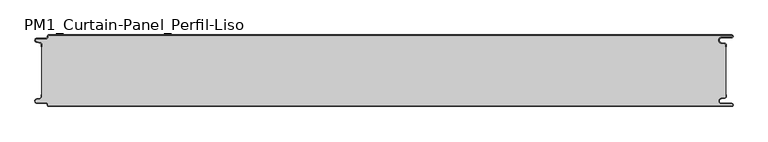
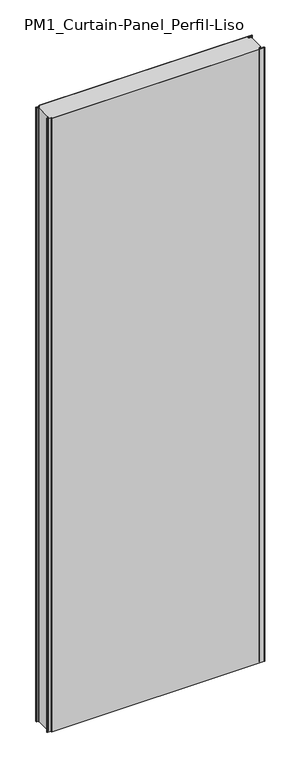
"""IFC4 building model written with IfcOpenShell, lengths in millimetres: plate geometry, PM1_Curtain-Panel_Perfil-Liso : ACH_PM1_Panel-Acústico-Sectorización_120M."""

import ifcopenshell
import ifcopenshell.guid

model = None  # the IFC model being written
_history = None  # IfcOwnerHistory: only IFC2X3 demands one
_inside = {}  # id of a spatial element -> (the spatial element, [elements in it])
_under = {}  # id of a project, library or spatial element -> (it, [spatial elements below it])
_declared = {}  # id of a project -> (the project, [libraries it declares])
_typed = {}  # id of a type object -> (the type object, [elements of that type])
_made_of = {}  # id of a material, layer set ... -> (it, [elements and type objects made of it])


def new_model(schema):
    """Start an empty IFC model of exactly this schema.

    Asked for "IFC4X3", IfcOpenShell would pick the latest addendum, in which some entities
    have other attributes; the version numbers below select the first issue.
    IFC2X3 requires an IfcOwnerHistory on every rooted entity: one is made here for all.
    """
    global model, _history
    if schema == "IFC4X3":
        model = ifcopenshell.file(schema_version=(4, 3, 0, 0))
    else:
        model = ifcopenshell.file(schema=schema)
    _inside.clear()
    _under.clear()
    _declared.clear()
    _typed.clear()
    _made_of.clear()
    _history = None
    if model.schema == "IFC2X3":
        org = make("IfcOrganization", Name="unknown")
        user = make(
            "IfcPersonAndOrganization",
            ThePerson=make("IfcPerson", FamilyName="unknown"),
            TheOrganization=org,
        )
        app = make(
            "IfcApplication",
            ApplicationDeveloper=org,
            Version="unknown",
            ApplicationFullName="unknown",
            ApplicationIdentifier="unknown",
        )
        _history = make(
            "IfcOwnerHistory",
            OwningUser=user,
            OwningApplication=app,
            ChangeAction="ADDED",
            CreationDate=0,
        )
    return model


def make(cls, **values):
    """One entity of the class cls with the attributes given. An attribute that is None is left unset."""
    return model.create_entity(
        cls, **{name: value for name, value in values.items() if value is not None}
    )


def rooted(cls, **values):
    """An entity with a GlobalId (a new one), such as an element, a storey or a relation."""
    return make(cls, GlobalId=ifcopenshell.guid.new(), OwnerHistory=_history, **values)


def si_unit(unit_type, name, prefix=None):
    """IfcSIUnit, for example si_unit("LENGTHUNIT", "METRE", prefix="MILLI")."""
    return make("IfcSIUnit", UnitType=unit_type, Prefix=prefix, Name=name)


def assignment(units):
    """IfcUnitAssignment: the units of a project."""
    return None if units is None else make("IfcUnitAssignment", Units=units)


def point(xyz):
    """IfcCartesianPoint."""
    return None if xyz is None else make("IfcCartesianPoint", Coordinates=xyz)


def direction(xyz):
    """IfcDirection."""
    return None if xyz is None else make("IfcDirection", DirectionRatios=xyz)


def frame(location, z_axis=None, x_axis=None):
    """IfcAxis2Placement3D, a coordinate frame: its origin and axes. An axis left out is left unset."""
    return make(
        "IfcAxis2Placement3D",
        Location=point(location),
        Axis=direction(z_axis),
        RefDirection=direction(x_axis),
    )


def frame_2d(location, x_axis=None):
    """IfcAxis2Placement2D, a coordinate frame in the plane: its origin and x axis."""
    return make(
        "IfcAxis2Placement2D", Location=point(location), RefDirection=direction(x_axis)
    )


def origin():
    """The frame at (0, 0, 0) with its axes left unset."""
    return frame((0.0, 0.0, 0.0))


def origin_with_axes():
    """The frame at (0, 0, 0) with the z axis (0, 0, 1) and the x axis (1, 0, 0) written out."""
    return frame((0.0, 0.0, 0.0), z_axis=(0.0, 0.0, 1.0), x_axis=(1.0, 0.0, 0.0))


def place(relative_to, where):
    """IfcLocalPlacement: puts the frame where relative to a parent placement (None: the world)."""
    return make(
        "IfcLocalPlacement", PlacementRelTo=relative_to, RelativePlacement=where
    )


def context(
    kind, dimensions, precision=None, world=None, true_north=None, identifier=None
):
    """IfcGeometricRepresentationContext, for example the 3D "Model" context."""
    return make(
        "IfcGeometricRepresentationContext",
        ContextIdentifier=identifier,
        ContextType=kind,
        CoordinateSpaceDimension=dimensions,
        Precision=precision,
        WorldCoordinateSystem=world,
        TrueNorth=true_north,
    )


def project(units=None, contexts=None):
    """IfcProject with its units and contexts."""
    return rooted(
        "IfcProject",
        Name="project",
        RepresentationContexts=contexts,
        UnitsInContext=assignment(units),
    )


def spatial(cls, under=None, at=None, **own):
    """A site, building, storey or space (cls), placed at a placement, below another one or the project."""
    s = rooted(cls, ObjectPlacement=at, **own)
    if under is not None:
        _under.setdefault(under.id(), (under, []))[1].append(s)
    return s


def polyline(points):
    """IfcPolyline through the points."""
    return make("IfcPolyline", Points=[point(p) for p in points])


def circle_curve(where, radius):
    """IfcCircle in the frame where."""
    return make("IfcCircle", Position=where, Radius=radius)


def trimmed(basis, trim1, trim2, sense, master):
    """IfcTrimmedCurve: the piece of a basis curve between two trims."""
    return make(
        "IfcTrimmedCurve",
        BasisCurve=basis,
        Trim1=trim1,
        Trim2=trim2,
        SenseAgreement=sense,
        MasterRepresentation=master,
    )


def segment(curve, same_sense, transition):
    """IfcCompositeCurveSegment."""
    return make(
        "IfcCompositeCurveSegment",
        Transition=transition,
        SameSense=same_sense,
        ParentCurve=curve,
    )


def composite_curve(segments, self_intersect=None):
    """IfcCompositeCurve: segments joined end to end."""
    return make("IfcCompositeCurve", Segments=segments, SelfIntersect=self_intersect)


def outline(outer, holes=None, kind="AREA"):
    """IfcArbitraryClosedProfileDef: a profile drawn as a closed curve; with holes, ...WithVoids."""
    if holes is None:
        return make("IfcArbitraryClosedProfileDef", ProfileType=kind, OuterCurve=outer)
    return make(
        "IfcArbitraryProfileDefWithVoids",
        ProfileType=kind,
        OuterCurve=outer,
        InnerCurves=holes,
    )


def extrude(swept, where, along, depth):
    """IfcExtrudedAreaSolid: the profile swept, set in the frame where, extruded along a direction by depth."""
    return make(
        "IfcExtrudedAreaSolid",
        SweptArea=swept,
        Position=where,
        ExtrudedDirection=direction(along),
        Depth=depth,
    )


def shape(context_of_items, identifier, shape_type, items):
    """IfcShapeRepresentation: the items that make up one representation, for example the "Body"."""
    return make(
        "IfcShapeRepresentation",
        ContextOfItems=context_of_items,
        RepresentationIdentifier=identifier,
        RepresentationType=shape_type,
        Items=items,
    )


def source(mapping_origin, context_of_items, identifier, shape_type, items):
    """IfcRepresentationMap: a shape defined once, which mapped items show again and again."""
    return make(
        "IfcRepresentationMap",
        MappingOrigin=mapping_origin,
        MappedRepresentation=shape(context_of_items, identifier, shape_type, items),
    )


def transform(
    local_origin,
    x_axis=None,
    y_axis=None,
    z_axis=None,
    scale=None,
    scale2=None,
    scale3=None,
    uniform=True,
):
    """IfcCartesianTransformationOperator3D, or its non-uniform kind. x_axis, y_axis, z_axis: its Axis1, 2, 3."""
    if uniform:
        return make(
            "IfcCartesianTransformationOperator3D",
            Axis1=direction(x_axis),
            Axis2=direction(y_axis),
            LocalOrigin=point(local_origin),
            Scale=scale,
            Axis3=direction(z_axis),
        )
    return make(
        "IfcCartesianTransformationOperator3DnonUniform",
        Axis1=direction(x_axis),
        Axis2=direction(y_axis),
        LocalOrigin=point(local_origin),
        Scale=scale,
        Axis3=direction(z_axis),
        Scale2=scale2,
        Scale3=scale3,
    )


def mapped(mapping_source, mapping_target):
    """IfcMappedItem: shows the shape of a source again, moved by a transform."""
    return make(
        "IfcMappedItem", MappingSource=mapping_source, MappingTarget=mapping_target
    )


def made_of(thing, what):
    """Note that an element or type object is made of a material, layer set ...; save() writes the relation."""
    if what is not None:
        _made_of.setdefault(what.id(), (what, []))[1].append(thing)
    return thing


def element(
    cls,
    number,
    at=None,
    inside=None,
    cuts=None,
    type_object=None,
    material=None,
    context=None,
    identifier="Body",
    shape_type=None,
    held_by="IfcProductDefinitionShape",
    body=None,
    shapes=None,
    **own,
):
    """One element of the class cls, such as IfcWall. Its Tag is "e" and its number.

    at: its placement. inside: the storey or other place that contains it. cuts: it is an
    opening in that element (IfcRelVoidsElement). A single representation is given by context,
    identifier, shape_type and body (its items); several are given by shapes. held_by: the class
    of the entity that holds the representations. save() writes the other relations.
    """
    e = rooted(cls, Tag="e%d" % number, ObjectPlacement=at, **own)
    if body is not None:
        shapes = [shape(context, identifier, shape_type, body)]
    if shapes is not None:
        e.Representation = make(held_by, Representations=shapes)
    if inside is not None:
        _inside.setdefault(inside.id(), (inside, []))[1].append(e)
    if cuts is not None:
        rooted(
            "IfcRelVoidsElement", RelatingBuildingElement=cuts, RelatedOpeningElement=e
        )
    if type_object is not None:
        _typed.setdefault(type_object.id(), (type_object, []))[1].append(e)
    return made_of(e, material)


def aggregate(whole, parts):
    """IfcRelAggregates: a whole, such as a stair, and the parts it consists of."""
    return rooted("IfcRelAggregates", RelatingObject=whole, RelatedObjects=parts)


def save(model, path):
    """Write the relations noted so far, then the file.

    IfcRelAggregates (storeys below a building ...), IfcRelContainedInSpatialStructure (elements
    in a storey), IfcRelDefinesByType, IfcRelAssociatesMaterial and IfcRelDeclares: one each for
    every whole, place, type object, material and project.
    """
    for whole, parts in _under.values():
        aggregate(whole, parts)
    for where, things in _inside.values():
        rooted(
            "IfcRelContainedInSpatialStructure",
            RelatedElements=things,
            RelatingStructure=where,
        )
    for kind, things in _typed.values():
        rooted("IfcRelDefinesByType", RelatedObjects=things, RelatingType=kind)
    for what, things in _made_of.values():
        rooted("IfcRelAssociatesMaterial", RelatedObjects=things, RelatingMaterial=what)
    for by, libraries in _declared.values():
        rooted("IfcRelDeclares", RelatingContext=by, RelatedDefinitions=libraries)
    model.write(path)


def plane_surface(at):
    """IfcPlane: the flat surface through the origin of the frame at, square to its z axis."""
    return make("IfcPlane", Position=at)


def cylinder_surface(at, radius):
    """IfcCylindricalSurface: all points at the distance radius from the z axis of the frame at."""
    return make("IfcCylindricalSurface", Position=at, Radius=radius)


def revolved_surface(curve, axis_point, axis_direction):
    """IfcSurfaceOfRevolution: the curve turned about the line through axis_point along axis_direction."""
    return make(
        "IfcSurfaceOfRevolution",
        SweptCurve=make("IfcArbitraryOpenProfileDef", ProfileType="CURVE", Curve=curve),
        AxisPosition=make("IfcAxis1Placement", Location=point(axis_point), Axis=direction(axis_direction)),
    )


def advanced_brep(points, edges, surfaces, faces):
    """IfcAdvancedBrep: a solid bounded by faces that lie on surfaces and meet in shared edges.

    An edge is (start, end): straight between two places in points (the first is 0);
    or (start, end, curve); or (start, end, curve, False) where it runs against its curve.
    A face is (place in surfaces, loops), or (place, loops, False) where it looks against
    its surface's normal. A loop lists edges by number (the first is 1), with a minus sign
    where the edge is run from its end to its start. The first loop is the outer one.
    """
    corners = [point(p) for p in points]
    vertices = [make("IfcVertexPoint", VertexGeometry=c) for c in corners]
    made = []
    for start, end, *more in edges:
        made.append(
            make(
                "IfcEdgeCurve",
                EdgeStart=vertices[start],
                EdgeEnd=vertices[end],
                EdgeGeometry=more[0] if more else make("IfcPolyline", Points=[corners[start], corners[end]]),
                SameSense=more[1] if len(more) > 1 else True,
            )
        )
    hull = []
    for where, loops, *sense in faces:
        bounds = []
        for j, loop in enumerate(loops):
            ring = [make("IfcOrientedEdge", EdgeElement=made[abs(k) - 1], Orientation=k > 0) for k in loop]
            bounds.append(
                make(
                    "IfcFaceOuterBound" if j == 0 else "IfcFaceBound",
                    Bound=make("IfcEdgeLoop", EdgeList=ring),
                    Orientation=True,
                )
            )
        hull.append(make("IfcAdvancedFace", Bounds=bounds, FaceSurface=surfaces[where], SameSense=sense[0] if sense else True))
    return make("IfcAdvancedBrep", Outer=make("IfcClosedShell", CfsFaces=hull))


def pm1_curtain_panel_perfil_liso_1df6bcda(model_context):
    return source(origin(), model_context, "Body", "SolidModel", [
        advanced_brep(
        [(583.1, 0.0, 3500.0), (-562.4, 0.0, 3500.0), (-564.4, -2.0, 3500.0), (-564.4, -3.4, 3500.0), (-566.4, -5.4, 3500.0), (-581.9, -5.4, 3500.0), (-582.7098239, -12.5077322, 3500.0), (-576.5500979, -13.929817, 3500.0), (-575.0, -15.878557, 3500.0), (-575.0, -20.0, 3500.0), (-574.2, -20.0, 3500.0), (-574.2, -15.878557, 3500.0), (-576.370137, -13.1503208, 3500.0), (-582.529863, -11.728236, 3500.0), (-581.9, -6.2, 3500.0), (-566.4, -6.2, 3500.0), (-563.6, -3.4, 3500.0), (-563.6, -2.0, 3500.0), (-562.4, -0.8, 3500.0), (583.1, -0.8, 3500.0), (583.1, -4.2, 3500.0), (566.1, -4.2, 3500.0), (565.266489, -13.7270773, 3500.0), (571.7125666, -14.8636942, 3500.0), (573.2, -16.636348, 3500.0), (573.2, -20.0, 3500.0), (574.0, -20.0, 3500.0), (574.0, -16.636348, 3500.0), (571.8514851, -14.0758478, 3500.0), (565.4054075, -12.9392309, 3500.0), (566.1, -5.0, 3500.0), (583.1, -5.0, 3500.0), (585.6, -2.5, 3500.0), (-562.4, 0.0, 0.0), (583.1, 0.0, 0.0), (585.6, -2.5, 0.0), (583.1, -5.0, 0.0), (566.1, -5.0, 0.0), (565.4054075, -12.939231, 0.0), (571.8514851, -14.075848, 0.0), (574.0, -16.636348, 0.0), (574.0, -20.0, 0.0), (573.2, -20.0, 0.0), (573.2, -16.636348, 0.0), (571.7125666, -14.863694, 0.0), (565.266489, -13.7270771, 0.0), (566.1, -4.2, 0.0), (583.1, -4.2, 0.0), (583.1, -0.8, 0.0), (-562.4, -0.8, 0.0), (-563.6, -2.0, 0.0), (-563.6, -3.4, 0.0), (-566.4, -6.2, 0.0), (-581.9, -6.2, 0.0), (-582.529863, -11.7282362, 0.0), (-576.370137, -13.150321, 0.0), (-574.2, -15.878557, 0.0), (-574.2, -20.0, 0.0), (-575.0, -20.0, 0.0), (-575.0, -15.878557, 0.0), (-576.5500978, -13.9298169, 0.0), (-582.7098239, -12.507732, 0.0), (-581.9, -5.4, 0.0), (-566.4, -5.4, 0.0), (-564.4, -3.4, 0.0), (-564.4, -2.0, 0.0)],
        [
            (0, 1),
            (1, 2, circle_curve(frame((-562.4, -2.0, 3500.0), z_axis=(0.0, 0.0, 1.0), x_axis=(1.0, 0.0, 0.0)), 2.0)),
            (2, 3),
            (3, 4, circle_curve(frame((-566.4, -3.4, 3500.0), z_axis=(0.0, 0.0, -1.0), x_axis=(1.0, 0.0, 0.0)), 2.0)),
            (4, 5),
            (5, 6, circle_curve(frame((-581.9, -9.0, 3500.0), z_axis=(0.0, 0.0, 1.0), x_axis=(1.0, 0.0, 0.0)), 3.6)),
            (6, 7),
            (7, 8, circle_curve(frame((-577.0, -15.878557, 3500.0), z_axis=(0.0, 0.0, -1.0), x_axis=(1.0, 0.0, 0.0)), 2.0)),
            (8, 9),
            (9, 10),
            (10, 11),
            (11, 12, circle_curve(frame((-577.0, -15.878557, 3500.0), z_axis=(0.0, 0.0, 1.0), x_axis=(1.0, 0.0, 0.0)), 2.8)),
            (12, 13),
            (13, 14, circle_curve(frame((-581.9, -9.0, 3500.0), z_axis=(0.0, 0.0, -1.0), x_axis=(1.0, 0.0, 0.0)), 2.8)),
            (14, 15),
            (15, 16, circle_curve(frame((-566.4, -3.4, 3500.0), z_axis=(0.0, 0.0, 1.0), x_axis=(1.0, 0.0, 0.0)), 2.8)),
            (16, 17),
            (17, 18, circle_curve(frame((-562.4, -2.0, 3500.0), z_axis=(0.0, 0.0, -1.0), x_axis=(1.0, 0.0, 0.0)), 1.2)),
            (18, 19),
            (19, 20, circle_curve(frame((583.1, -2.5, 3500.0), z_axis=(0.0, 0.0, -1.0), x_axis=(1.0, 0.0, 0.0)), 1.7)),
            (20, 21),
            (21, 22, circle_curve(frame((566.1, -9.0, 3500.0), z_axis=(0.0, 0.0, 1.0), x_axis=(1.0, 0.0, 0.0)), 4.8)),
            (22, 23),
            (23, 24, circle_curve(frame((571.4, -16.636348, 3500.0), z_axis=(0.0, 0.0, -1.0), x_axis=(1.0, 0.0, 0.0)), 1.8)),
            (24, 25),
            (25, 26),
            (26, 27),
            (27, 28, circle_curve(frame((571.4, -16.636348, 3500.0), z_axis=(0.0, 0.0, 1.0), x_axis=(1.0, 0.0, 0.0)), 2.6)),
            (28, 29),
            (29, 30, circle_curve(frame((566.1, -9.0, 3500.0), z_axis=(0.0, 0.0, -1.0), x_axis=(1.0, 0.0, 0.0)), 4.0)),
            (30, 31),
            (31, 32, circle_curve(frame((583.1, -2.5, 3500.0), z_axis=(0.0, 0.0, 1.0), x_axis=(1.0, 0.0, 0.0)), 2.5)),
            (32, 0, circle_curve(frame((583.1, -2.5, 3500.0), z_axis=(0.0, 0.0, 1.0), x_axis=(1.0, 0.0, 0.0)), 2.5)),
            (33, 34),
            (34, 35, circle_curve(frame((583.1, -2.5, 0.0), z_axis=(0.0, 0.0, -1.0), x_axis=(1.0, 0.0, 0.0)), 2.5)),
            (35, 36, circle_curve(frame((583.1, -2.5, 0.0), z_axis=(0.0, 0.0, -1.0), x_axis=(1.0, 0.0, 0.0)), 2.5)),
            (36, 37),
            (37, 38, circle_curve(frame((566.1, -9.0, 0.0), z_axis=(0.0, 0.0, 1.0), x_axis=(1.0, 0.0, 0.0)), 4.0)),
            (38, 39),
            (39, 40, circle_curve(frame((571.4, -16.636348, 0.0), z_axis=(0.0, 0.0, -1.0), x_axis=(1.0, 0.0, 0.0)), 2.6)),
            (40, 41),
            (41, 42),
            (42, 43),
            (43, 44, circle_curve(frame((571.4, -16.636348, 0.0), z_axis=(0.0, 0.0, 1.0), x_axis=(1.0, 0.0, 0.0)), 1.8)),
            (44, 45),
            (45, 46, circle_curve(frame((566.1, -9.0, 0.0), z_axis=(0.0, 0.0, -1.0), x_axis=(1.0, 0.0, 0.0)), 4.8)),
            (46, 47),
            (47, 48, circle_curve(frame((583.1, -2.5, 0.0), z_axis=(0.0, 0.0, 1.0), x_axis=(1.0, 0.0, 0.0)), 1.7)),
            (48, 49),
            (49, 50, circle_curve(frame((-562.4, -2.0, 0.0), z_axis=(0.0, 0.0, 1.0), x_axis=(1.0, 0.0, 0.0)), 1.2)),
            (50, 51),
            (51, 52, circle_curve(frame((-566.4, -3.4, 0.0), z_axis=(0.0, 0.0, -1.0), x_axis=(1.0, 0.0, 0.0)), 2.8)),
            (52, 53),
            (53, 54, circle_curve(frame((-581.9, -9.0, 0.0), z_axis=(0.0, 0.0, 1.0), x_axis=(1.0, 0.0, 0.0)), 2.8)),
            (54, 55),
            (55, 56, circle_curve(frame((-577.0, -15.878557, 0.0), z_axis=(0.0, 0.0, -1.0), x_axis=(1.0, 0.0, 0.0)), 2.8)),
            (56, 57),
            (57, 58),
            (58, 59),
            (59, 60, circle_curve(frame((-577.0, -15.878557, 0.0), z_axis=(0.0, 0.0, 1.0), x_axis=(1.0, 0.0, 0.0)), 2.0)),
            (60, 61),
            (61, 62, circle_curve(frame((-581.9, -9.0, 0.0), z_axis=(0.0, 0.0, -1.0), x_axis=(1.0, 0.0, 0.0)), 3.6)),
            (62, 63),
            (63, 64, circle_curve(frame((-566.4, -3.4, 0.0), z_axis=(0.0, 0.0, 1.0), x_axis=(1.0, 0.0, 0.0)), 2.0)),
            (64, 65),
            (65, 33, circle_curve(frame((-562.4, -2.0, 0.0), z_axis=(0.0, 0.0, -1.0), x_axis=(1.0, 0.0, 0.0)), 2.0)),
            (1, 33),
            (65, 2),
            (64, 3),
            (63, 4),
            (62, 5),
            (61, 6),
            (60, 7),
            (59, 8),
            (58, 9),
            (57, 10),
            (56, 11),
            (55, 12),
            (54, 13),
            (53, 14),
            (52, 15),
            (51, 16),
            (50, 17),
            (49, 18),
            (48, 19),
            (47, 20),
            (46, 21),
            (45, 22),
            (44, 23),
            (43, 24),
            (42, 25),
            (41, 26),
            (40, 27),
            (39, 28),
            (38, 29),
            (37, 30),
            (36, 31),
            (34, 0),
        ],
        [
            plane_surface(frame((-575.0, 0.0, 3500.0), z_axis=(0.0, 0.0, 1.0), x_axis=(0.0, 1.0, 0.0))),
            plane_surface(frame((-575.0, 0.0, 0.0), z_axis=(0.0, 0.0, -1.0), x_axis=(0.0, 1.0, 0.0))),
            cylinder_surface(frame((-562.4, -2.0, 3500.0), z_axis=(0.0, 0.0, 1.0), x_axis=(1.0, 0.0, 0.0)), 2.0),
            plane_surface(frame((-564.4, -2.0, 3500.0), z_axis=(-1.0, 0.0, 0.0), x_axis=(0.0, 0.0, -1.0))),
            revolved_surface(polyline([(-564.4, -3.4, 0.0), (-564.4, -3.4, 3500.0)]), (-566.4, -3.4, 3500.0), (0.0, 0.0, -1.0)),
            plane_surface(frame((-566.4, -5.4, 3500.0), z_axis=(0.0, 1.0, 0.0), x_axis=(0.0, 0.0, -1.0))),
            cylinder_surface(frame((-581.9, -9.0, 3500.0), z_axis=(0.0, 0.0, 1.0), x_axis=(1.0, 0.0, 0.0)), 3.6),
            plane_surface(frame((-582.7098239, -12.507732, 3500.0), z_axis=(-0.2249510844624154, -0.9743700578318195, 0.0), x_axis=(0.0, 0.0, -1.0))),
            revolved_surface(polyline([(-575.0, -15.878557, 0.0), (-575.0, -15.878557, 3500.0)]), (-577.0, -15.878557, 3500.0), (0.0, 0.0, -1.0)),
            plane_surface(frame((-575.0, -15.878557, 3500.0), z_axis=(-1.0, 0.0, 0.0), x_axis=(0.0, 0.0, -1.0))),
            plane_surface(frame((-575.0, -20.0, 3500.0), z_axis=(0.0, -1.0, 0.0), x_axis=(0.0, 0.0, -1.0))),
            plane_surface(frame((-574.2, -20.0, 3500.0), z_axis=(1.0, 0.0, 0.0), x_axis=(0.0, 0.0, -1.0))),
            cylinder_surface(frame((-577.0, -15.878557, 3500.0), z_axis=(0.0, 0.0, 1.0), x_axis=(1.0, 0.0, 0.0)), 2.8),
            plane_surface(frame((-576.370137, -13.150321, 3500.0), z_axis=(0.22495108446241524, 0.9743700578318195, 0.0), x_axis=(0.0, 0.0, -1.0))),
            revolved_surface(polyline([(-579.1, -9.0, 0.0), (-579.1, -9.0, 3500.0)]), (-581.9, -9.0, 3500.0), (0.0, 0.0, -1.0)),
            plane_surface(frame((-581.9, -6.2, 3500.0), z_axis=(0.0, -1.0, 0.0), x_axis=(0.0, 0.0, -1.0))),
            cylinder_surface(frame((-566.4, -3.4, 3500.0), z_axis=(0.0, 0.0, 1.0), x_axis=(1.0, 0.0, 0.0)), 2.8),
            plane_surface(frame((-563.6, -3.4, 3500.0), z_axis=(1.0, 0.0, 0.0), x_axis=(0.0, 0.0, -1.0))),
            revolved_surface(polyline([(-561.1999999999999, -2.0, 0.0), (-561.1999999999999, -2.0, 3500.0)]), (-562.4, -2.0, 3500.0), (0.0, 0.0, -1.0)),
            plane_surface(frame((560.890897, -0.8, 3500.0), z_axis=(0.0, -1.0, 0.0), x_axis=(0.0, 0.0, -1.0))),
            revolved_surface(polyline([(584.8000000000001, -2.5, 0.0), (584.8000000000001, -2.5, 3500.0)]), (583.1, -2.5, 3500.0), (0.0, 0.0, -1.0)),
            plane_surface(frame((583.1, -4.2, 3500.0), z_axis=(0.0, 1.0, 0.0), x_axis=(0.0, 0.0, -1.0))),
            cylinder_surface(frame((566.1, -9.0, 3500.0), z_axis=(0.0, 0.0, 1.0), x_axis=(1.0, 0.0, 0.0)), 4.8),
            plane_surface(frame((565.266489, -13.7270771, 3500.0), z_axis=(-0.1736481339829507, -0.9848077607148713, 0.0), x_axis=(0.0, 0.0, -1.0))),
            revolved_surface(polyline([(573.1999999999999, -16.636348, 0.0), (573.1999999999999, -16.636348, 3500.0)]), (571.4, -16.636348, 3500.0), (0.0, 0.0, -1.0)),
            plane_surface(frame((573.2, -16.636348, 3500.0), z_axis=(-1.0, 0.0, 0.0), x_axis=(0.0, 0.0, -1.0))),
            plane_surface(frame((573.2, -20.0, 3500.0), z_axis=(0.0, -1.0, 0.0), x_axis=(0.0, 0.0, -1.0))),
            plane_surface(frame((574.0, -20.0, 3500.0), z_axis=(1.0, 0.0, 0.0), x_axis=(0.0, 0.0, -1.0))),
            cylinder_surface(frame((571.4, -16.636348, 3500.0), z_axis=(0.0, 0.0, 1.0), x_axis=(1.0, 0.0, 0.0)), 2.6),
            plane_surface(frame((571.8514851, -14.075848, 3500.0), z_axis=(0.17364813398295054, 0.9848077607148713, 0.0), x_axis=(0.0, 0.0, -1.0))),
            revolved_surface(polyline([(570.1, -9.0, 0.0), (570.1, -9.0, 3500.0)]), (566.1, -9.0, 3500.0), (0.0, 0.0, -1.0)),
            plane_surface(frame((566.1, -5.0, 3500.0), z_axis=(0.0, -1.0, 0.0), x_axis=(0.0, 0.0, -1.0))),
            cylinder_surface(frame((583.1, -2.5, 3500.0), z_axis=(0.0, 0.0, 1.0), x_axis=(1.0, 0.0, 0.0)), 2.5),
            plane_surface(frame((510.5961529, 0.0, 3500.0), z_axis=(0.0, 1.0, 0.0), x_axis=(0.0, 0.0, -1.0))),
        ],
        [
            (0, [[1, 2, 3, 4, 5, 6, 7, 8, 9, 10, 11, 12, 13, 14, 15, 16, 17, 18, 19, 20, 21, 22, 23, 24, 25, 26, 27, 28, 29, 30, 31, 32, 33]]),
            (1, [[34, 35, 36, 37, 38, 39, 40, 41, 42, 43, 44, 45, 46, 47, 48, 49, 50, 51, 52, 53, 54, 55, 56, 57, 58, 59, 60, 61, 62, 63, 64, 65, 66]]),
            (2, [[-2, 67, -66, 68]]),
            (3, [[-3, -68, -65, 69]]),
            (4, [[-4, -69, -64, 70]]),
            (5, [[-5, -70, -63, 71]]),
            (6, [[-6, -71, -62, 72]]),
            (7, [[-7, -72, -61, 73]]),
            (8, [[-8, -73, -60, 74]]),
            (9, [[-9, -74, -59, 75]]),
            (10, [[-10, -75, -58, 76]]),
            (11, [[-11, -76, -57, 77]]),
            (12, [[-12, -77, -56, 78]]),
            (13, [[-13, -78, -55, 79]]),
            (14, [[-14, -79, -54, 80]]),
            (15, [[-15, -80, -53, 81]]),
            (16, [[-16, -81, -52, 82]]),
            (17, [[-17, -82, -51, 83]]),
            (18, [[-18, -83, -50, 84]]),
            (19, [[-19, -84, -49, 85]]),
            (20, [[-20, -85, -48, 86]]),
            (21, [[-21, -86, -47, 87]]),
            (22, [[-22, -87, -46, 88]]),
            (23, [[-23, -88, -45, 89]]),
            (24, [[-24, -89, -44, 90]]),
            (25, [[-25, -90, -43, 91]]),
            (26, [[-26, -91, -42, 92]]),
            (27, [[-27, -92, -41, 93]]),
            (28, [[-28, -93, -40, 94]]),
            (29, [[-29, -94, -39, 95]]),
            (30, [[-30, -95, -38, 96]]),
            (31, [[-31, -96, -37, 97]]),
            (32, [[-97, -36, -35, 98, -33, -32]]),
            (33, [[-1, -98, -34, -67]]),
        ],
    ),
        extrude(outline(composite_curve([segment(polyline([(-574.2, -104.1214426), (-574.2, -15.8785573)]), True, "CONTINUOUS"), segment(trimmed(circle_curve(frame_2d((-577.0, -15.8785573)), 2.8), [point((-574.2, -15.8785573))], [point((-576.370137, -13.1503212))], True, "CARTESIAN"), True, "CONTINUOUS"), segment(polyline([(-576.370137, -13.1503212), (-582.5298631, -11.7282362)]), True, "CONTINUOUS"), segment(trimmed(circle_curve(frame_2d((-581.9, -9.0)), 2.8), [point((-582.5298631, -11.7282362))], [point((-581.9, -6.2))], False, "CARTESIAN"), True, "CONTINUOUS"), segment(polyline([(-581.9, -6.2), (-566.4000001, -6.2)]), True, "CONTINUOUS"), segment(trimmed(circle_curve(frame_2d((-566.4000001, -3.4)), 2.8), [point((-566.4000001, -6.2))], [point((-563.6000001, -3.4))], True, "CARTESIAN"), True, "CONTINUOUS"), segment(polyline([(-563.6000001, -3.4), (-563.6000001, -2.0)]), True, "CONTINUOUS"), segment(trimmed(circle_curve(frame_2d((-562.4000001, -2.0)), 1.2), [point((-563.6000001, -2.0))], [point((-562.4000001, -0.8))], False, "CARTESIAN"), True, "CONTINUOUS"), segment(polyline([(-562.4000001, -0.8), (583.1, -0.8)]), True, "CONTINUOUS"), segment(trimmed(circle_curve(frame_2d((583.1, -2.5)), 1.7), [point((583.1, -0.8))], [point((583.1, -4.2))], False, "CARTESIAN"), True, "CONTINUOUS"), segment(polyline([(583.1, -4.2), (566.1, -4.2)]), True, "CONTINUOUS"), segment(trimmed(circle_curve(frame_2d((566.1, -9.0)), 4.8), [point((566.1, -4.2))], [point((565.2664883, -13.7270771))], True, "CARTESIAN"), True, "CONTINUOUS"), segment(polyline([(565.2664883, -13.7270771), (571.7125668, -14.8636953)]), True, "CONTINUOUS"), segment(trimmed(circle_curve(frame_2d((571.4, -16.6363492)), 1.8), [point((571.7125668, -14.8636953))], [point((573.2, -16.6363492))], False, "CARTESIAN"), True, "CONTINUOUS"), segment(polyline([(573.2, -16.6363492), (573.2, -103.3636508)]), True, "CONTINUOUS"), segment(trimmed(circle_curve(frame_2d((571.4, -103.3636508)), 1.8), [point((573.2, -103.3636508))], [point((571.7125668, -105.1363047))], False, "CARTESIAN"), True, "CONTINUOUS"), segment(polyline([(571.7125668, -105.1363047), (565.2664883, -106.2729229)]), True, "CONTINUOUS"), segment(trimmed(circle_curve(frame_2d((566.1, -111.0)), 4.8), [point((565.2664883, -106.2729229))], [point((566.1, -115.8))], True, "CARTESIAN"), True, "CONTINUOUS"), segment(polyline([(566.1, -115.8), (583.1, -115.8)]), True, "CONTINUOUS"), segment(trimmed(circle_curve(frame_2d((583.1, -117.5)), 1.7), [point((583.1, -115.8))], [point((583.1, -119.2))], False, "CARTESIAN"), True, "CONTINUOUS"), segment(polyline([(583.1, -119.2), (-562.4000001, -119.2)]), True, "CONTINUOUS"), segment(trimmed(circle_curve(frame_2d((-562.4000001, -118.0)), 1.2), [point((-562.4000001, -119.2))], [point((-563.6000001, -118.0))], False, "CARTESIAN"), True, "CONTINUOUS"), segment(polyline([(-563.6000001, -118.0), (-563.6000001, -116.6)]), True, "CONTINUOUS"), segment(trimmed(circle_curve(frame_2d((-566.4000001, -116.6)), 2.8), [point((-563.6000001, -116.6))], [point((-566.4000001, -113.8))], True, "CARTESIAN"), True, "CONTINUOUS"), segment(polyline([(-566.4000001, -113.8), (-581.9, -113.8)]), True, "CONTINUOUS"), segment(trimmed(circle_curve(frame_2d((-581.9, -111.0)), 2.8), [point((-581.9, -113.8))], [point((-582.5298631, -108.2717638))], False, "CARTESIAN"), True, "CONTINUOUS"), segment(polyline([(-582.5298631, -108.2717638), (-576.370137, -106.8496788)]), True, "CONTINUOUS"), segment(trimmed(circle_curve(frame_2d((-577.0, -104.1214426)), 2.8), [point((-576.370137, -106.8496788))], [point((-574.2, -104.1214426))], True, "CARTESIAN"), True, "CONTINUOUS")], self_intersect=False)), origin_with_axes(), (0.0, 0.0, 1.0), 3500.0),
        advanced_brep(
        [(-562.4, -120.0, 3500.0), (583.1, -120.0, 3500.0), (585.6, -117.5, 3500.0), (583.1, -115.0, 3500.0), (566.1, -115.0, 3500.0), (565.4054075, -107.060769, 3500.0), (571.8514851, -105.924152, 3500.0), (574.0, -103.363652, 3500.0), (574.0, -100.0, 3500.0), (573.2, -100.0, 3500.0), (573.2, -103.363652, 3500.0), (571.7125666, -105.136306, 3500.0), (565.266489, -106.2729229, 3500.0), (566.1, -115.8, 3500.0), (583.1, -115.8, 3500.0), (583.1, -119.2, 3500.0), (-562.4, -119.2, 3500.0), (-563.6, -118.0, 3500.0), (-563.6, -116.6, 3500.0), (-566.4, -113.8, 3500.0), (-581.9, -113.8, 3500.0), (-582.529863, -108.2717638, 3500.0), (-576.370137, -106.849679, 3500.0), (-574.2, -104.121443, 3500.0), (-574.2, -100.0, 3500.0), (-575.0, -100.0, 3500.0), (-575.0, -104.121443, 3500.0), (-576.5500978, -106.0701831, 3500.0), (-582.7098239, -107.492268, 3500.0), (-581.9, -114.6, 3500.0), (-566.4, -114.6, 3500.0), (-564.4, -116.6, 3500.0), (-564.4, -118.0, 3500.0), (583.1, -120.0, 0.0), (-562.4, -120.0, 0.0), (-564.4, -118.0, 0.0), (-564.4, -116.6, 0.0), (-566.4, -114.6, 0.0), (-581.9, -114.6, 0.0), (-582.7098239, -107.4922678, 0.0), (-576.5500979, -106.070183, 0.0), (-575.0, -104.121443, 0.0), (-575.0, -100.0, 0.0), (-574.2, -100.0, 0.0), (-574.2, -104.121443, 0.0), (-576.370137, -106.8496792, 0.0), (-582.529863, -108.271764, 0.0), (-581.9, -113.8, 0.0), (-566.4, -113.8, 0.0), (-563.6, -116.6, 0.0), (-563.6, -118.0, 0.0), (-562.4, -119.2, 0.0), (583.1, -119.2, 0.0), (583.1, -115.8, 0.0), (566.1, -115.8, 0.0), (565.266489, -106.2729227, 0.0), (571.7125666, -105.1363058, 0.0), (573.2, -103.363652, 0.0), (573.2, -100.0, 0.0), (574.0, -100.0, 0.0), (574.0, -103.363652, 0.0), (571.8514851, -105.9241522, 0.0), (565.4054075, -107.0607691, 0.0), (566.1, -115.0, 0.0), (583.1, -115.0, 0.0), (585.6, -117.5, 0.0)],
        [
            (0, 1),
            (1, 2, circle_curve(frame((583.1, -117.5, 3500.0), z_axis=(0.0, 0.0, 1.0), x_axis=(1.0, 0.0, 0.0)), 2.5)),
            (2, 3, circle_curve(frame((583.1, -117.5, 3500.0), z_axis=(0.0, 0.0, 1.0), x_axis=(1.0, 0.0, 0.0)), 2.5)),
            (3, 4),
            (4, 5, circle_curve(frame((566.1, -111.0, 3500.0), z_axis=(0.0, 0.0, -1.0), x_axis=(1.0, 0.0, 0.0)), 4.0)),
            (5, 6),
            (6, 7, circle_curve(frame((571.4, -103.363652, 3500.0), z_axis=(0.0, 0.0, 1.0), x_axis=(1.0, 0.0, 0.0)), 2.6)),
            (7, 8),
            (8, 9),
            (9, 10),
            (10, 11, circle_curve(frame((571.4, -103.363652, 3500.0), z_axis=(0.0, 0.0, -1.0), x_axis=(1.0, 0.0, 0.0)), 1.8)),
            (11, 12),
            (12, 13, circle_curve(frame((566.1, -111.0, 3500.0), z_axis=(0.0, 0.0, 1.0), x_axis=(1.0, 0.0, 0.0)), 4.8)),
            (13, 14),
            (14, 15, circle_curve(frame((583.1, -117.5, 3500.0), z_axis=(0.0, 0.0, -1.0), x_axis=(1.0, 0.0, 0.0)), 1.7)),
            (15, 16),
            (16, 17, circle_curve(frame((-562.4, -118.0, 3500.0), z_axis=(0.0, 0.0, -1.0), x_axis=(1.0, 0.0, 0.0)), 1.2)),
            (17, 18),
            (18, 19, circle_curve(frame((-566.4, -116.6, 3500.0), z_axis=(0.0, 0.0, 1.0), x_axis=(1.0, 0.0, 0.0)), 2.8)),
            (19, 20),
            (20, 21, circle_curve(frame((-581.9, -111.0, 3500.0), z_axis=(0.0, 0.0, -1.0), x_axis=(1.0, 0.0, 0.0)), 2.8)),
            (21, 22),
            (22, 23, circle_curve(frame((-577.0, -104.121443, 3500.0), z_axis=(0.0, 0.0, 1.0), x_axis=(1.0, 0.0, 0.0)), 2.8)),
            (23, 24),
            (24, 25),
            (25, 26),
            (26, 27, circle_curve(frame((-577.0, -104.121443, 3500.0), z_axis=(0.0, 0.0, -1.0), x_axis=(1.0, 0.0, 0.0)), 2.0)),
            (27, 28),
            (28, 29, circle_curve(frame((-581.9, -111.0, 3500.0), z_axis=(0.0, 0.0, 1.0), x_axis=(1.0, 0.0, 0.0)), 3.6)),
            (29, 30),
            (30, 31, circle_curve(frame((-566.4, -116.6, 3500.0), z_axis=(0.0, 0.0, -1.0), x_axis=(1.0, 0.0, 0.0)), 2.0)),
            (31, 32),
            (32, 0, circle_curve(frame((-562.4, -118.0, 3500.0), z_axis=(0.0, 0.0, 1.0), x_axis=(1.0, 0.0, 0.0)), 2.0)),
            (33, 34),
            (34, 35, circle_curve(frame((-562.4, -118.0, 0.0), z_axis=(0.0, 0.0, -1.0), x_axis=(1.0, 0.0, 0.0)), 2.0)),
            (35, 36),
            (36, 37, circle_curve(frame((-566.4, -116.6, 0.0), z_axis=(0.0, 0.0, 1.0), x_axis=(1.0, 0.0, 0.0)), 2.0)),
            (37, 38),
            (38, 39, circle_curve(frame((-581.9, -111.0, 0.0), z_axis=(0.0, 0.0, -1.0), x_axis=(1.0, 0.0, 0.0)), 3.6)),
            (39, 40),
            (40, 41, circle_curve(frame((-577.0, -104.121443, 0.0), z_axis=(0.0, 0.0, 1.0), x_axis=(1.0, 0.0, 0.0)), 2.0)),
            (41, 42),
            (42, 43),
            (43, 44),
            (44, 45, circle_curve(frame((-577.0, -104.121443, 0.0), z_axis=(0.0, 0.0, -1.0), x_axis=(1.0, 0.0, 0.0)), 2.8)),
            (45, 46),
            (46, 47, circle_curve(frame((-581.9, -111.0, 0.0), z_axis=(0.0, 0.0, 1.0), x_axis=(1.0, 0.0, 0.0)), 2.8)),
            (47, 48),
            (48, 49, circle_curve(frame((-566.4, -116.6, 0.0), z_axis=(0.0, 0.0, -1.0), x_axis=(1.0, 0.0, 0.0)), 2.8)),
            (49, 50),
            (50, 51, circle_curve(frame((-562.4, -118.0, 0.0), z_axis=(0.0, 0.0, 1.0), x_axis=(1.0, 0.0, 0.0)), 1.2)),
            (51, 52),
            (52, 53, circle_curve(frame((583.1, -117.5, 0.0), z_axis=(0.0, 0.0, 1.0), x_axis=(1.0, 0.0, 0.0)), 1.7)),
            (53, 54),
            (54, 55, circle_curve(frame((566.1, -111.0, 0.0), z_axis=(0.0, 0.0, -1.0), x_axis=(1.0, 0.0, 0.0)), 4.8)),
            (55, 56),
            (56, 57, circle_curve(frame((571.4, -103.363652, 0.0), z_axis=(0.0, 0.0, 1.0), x_axis=(1.0, 0.0, 0.0)), 1.8)),
            (57, 58),
            (58, 59),
            (59, 60),
            (60, 61, circle_curve(frame((571.4, -103.363652, 0.0), z_axis=(0.0, 0.0, -1.0), x_axis=(1.0, 0.0, 0.0)), 2.6)),
            (61, 62),
            (62, 63, circle_curve(frame((566.1, -111.0, 0.0), z_axis=(0.0, 0.0, 1.0), x_axis=(1.0, 0.0, 0.0)), 4.0)),
            (63, 64),
            (64, 65, circle_curve(frame((583.1, -117.5, 0.0), z_axis=(0.0, 0.0, -1.0), x_axis=(1.0, 0.0, 0.0)), 2.5)),
            (65, 33, circle_curve(frame((583.1, -117.5, 0.0), z_axis=(0.0, 0.0, -1.0), x_axis=(1.0, 0.0, 0.0)), 2.5)),
            (0, 34),
            (33, 1),
            (64, 3),
            (63, 4),
            (62, 5),
            (61, 6),
            (60, 7),
            (59, 8),
            (58, 9),
            (57, 10),
            (56, 11),
            (55, 12),
            (54, 13),
            (53, 14),
            (52, 15),
            (51, 16),
            (50, 17),
            (49, 18),
            (48, 19),
            (47, 20),
            (46, 21),
            (45, 22),
            (44, 23),
            (43, 24),
            (42, 25),
            (41, 26),
            (40, 27),
            (39, 28),
            (38, 29),
            (37, 30),
            (36, 31),
            (35, 32),
        ],
        [
            plane_surface(frame((-575.0, -120.0, 3500.0), z_axis=(0.0, 0.0, 1.0), x_axis=(0.0, 1.0, 0.0))),
            plane_surface(frame((-575.0, -120.0, 0.0), z_axis=(0.0, 0.0, -1.0), x_axis=(0.0, 1.0, 0.0))),
            plane_surface(frame((560.890897, -120.0, 3500.0), z_axis=(0.0, -1.0, 0.0), x_axis=(0.0, 0.0, -1.0))),
            cylinder_surface(frame((583.1, -117.5, 3500.0), z_axis=(0.0, 0.0, 1.0), x_axis=(1.0, 0.0, 0.0)), 2.5),
            plane_surface(frame((583.1, -115.0, 3500.0), z_axis=(0.0, 1.0, 0.0), x_axis=(0.0, 0.0, -1.0))),
            revolved_surface(polyline([(570.1, -111.0, 0.0), (570.1, -111.0, 3500.0)]), (566.1, -111.0, 3500.0), (0.0, 0.0, -1.0)),
            plane_surface(frame((565.4054075, -107.0607691, 3500.0), z_axis=(0.17364813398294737, -0.9848077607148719, 0.0), x_axis=(0.0, 0.0, -1.0))),
            cylinder_surface(frame((571.4, -103.363652, 3500.0), z_axis=(0.0, 0.0, 1.0), x_axis=(1.0, 0.0, 0.0)), 2.6),
            plane_surface(frame((574.0, -103.363652, 3500.0), z_axis=(1.0, 0.0, 0.0), x_axis=(0.0, 0.0, -1.0))),
            plane_surface(frame((574.0, -100.0, 3500.0), z_axis=(0.0, 1.0, 0.0), x_axis=(0.0, 0.0, -1.0))),
            plane_surface(frame((573.2, -100.0, 3500.0), z_axis=(-1.0, 0.0, 0.0), x_axis=(0.0, 0.0, -1.0))),
            revolved_surface(polyline([(573.1999999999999, -103.363652, 0.0), (573.1999999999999, -103.363652, 3500.0)]), (571.4, -103.363652, 3500.0), (0.0, 0.0, -1.0)),
            plane_surface(frame((571.7125666, -105.1363058, 3500.0), z_axis=(-0.17364813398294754, 0.9848077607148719, 0.0), x_axis=(0.0, 0.0, -1.0))),
            cylinder_surface(frame((566.1, -111.0, 3500.0), z_axis=(0.0, 0.0, 1.0), x_axis=(1.0, 0.0, 0.0)), 4.8),
            plane_surface(frame((566.1, -115.8, 3500.0), z_axis=(0.0, -1.0, 0.0), x_axis=(0.0, 0.0, -1.0))),
            revolved_surface(polyline([(584.8000000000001, -117.5, 0.0), (584.8000000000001, -117.5, 3500.0)]), (583.1, -117.5, 3500.0), (0.0, 0.0, -1.0)),
            plane_surface(frame((510.8105122, -119.2, 3500.0), z_axis=(0.0, 1.0, 0.0), x_axis=(0.0, 0.0, -1.0))),
            revolved_surface(polyline([(-561.1999999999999, -118.0, 0.0), (-561.1999999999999, -118.0, 3500.0)]), (-562.4, -118.0, 3500.0), (0.0, 0.0, -1.0)),
            plane_surface(frame((-563.6, -118.0, 3500.0), z_axis=(1.0, 0.0, 0.0), x_axis=(0.0, 0.0, -1.0))),
            cylinder_surface(frame((-566.4, -116.6, 3500.0), z_axis=(0.0, 0.0, 1.0), x_axis=(1.0, 0.0, 0.0)), 2.8),
            plane_surface(frame((-566.4, -113.8, 3500.0), z_axis=(0.0, 1.0, 0.0), x_axis=(0.0, 0.0, -1.0))),
            revolved_surface(polyline([(-579.1, -111.0, 0.0), (-579.1, -111.0, 3500.0)]), (-581.9, -111.0, 3500.0), (0.0, 0.0, -1.0)),
            plane_surface(frame((-582.529863, -108.271764, 3500.0), z_axis=(0.2249510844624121, -0.9743700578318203, 0.0), x_axis=(0.0, 0.0, -1.0))),
            cylinder_surface(frame((-577.0, -104.121443, 3500.0), z_axis=(0.0, 0.0, 1.0), x_axis=(1.0, 0.0, 0.0)), 2.8),
            plane_surface(frame((-574.2, -104.121443, 3500.0), z_axis=(1.0, 0.0, 0.0), x_axis=(0.0, 0.0, -1.0))),
            plane_surface(frame((-574.2, -100.0, 3500.0), z_axis=(0.0, 1.0, 0.0), x_axis=(0.0, 0.0, -1.0))),
            plane_surface(frame((-575.0, -100.0, 3500.0), z_axis=(-1.0, 0.0, 0.0), x_axis=(0.0, 0.0, -1.0))),
            revolved_surface(polyline([(-575.0, -104.121443, 0.0), (-575.0, -104.121443, 3500.0)]), (-577.0, -104.121443, 3500.0), (0.0, 0.0, -1.0)),
            plane_surface(frame((-576.5500979, -106.070183, 3500.0), z_axis=(-0.22495108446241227, 0.9743700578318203, 0.0), x_axis=(0.0, 0.0, -1.0))),
            cylinder_surface(frame((-581.9, -111.0, 3500.0), z_axis=(0.0, 0.0, 1.0), x_axis=(1.0, 0.0, 0.0)), 3.6),
            plane_surface(frame((-581.9, -114.6, 3500.0), z_axis=(0.0, -1.0, 0.0), x_axis=(0.0, 0.0, -1.0))),
            revolved_surface(polyline([(-564.4, -116.6, 0.0), (-564.4, -116.6, 3500.0)]), (-566.4, -116.6, 3500.0), (0.0, 0.0, -1.0)),
            plane_surface(frame((-564.4, -116.6, 3500.0), z_axis=(-1.0, 0.0, 0.0), x_axis=(0.0, 0.0, -1.0))),
            cylinder_surface(frame((-562.4, -118.0, 3500.0), z_axis=(0.0, 0.0, 1.0), x_axis=(1.0, 0.0, 0.0)), 2.0),
        ],
        [
            (0, [[1, 2, 3, 4, 5, 6, 7, 8, 9, 10, 11, 12, 13, 14, 15, 16, 17, 18, 19, 20, 21, 22, 23, 24, 25, 26, 27, 28, 29, 30, 31, 32, 33]]),
            (1, [[34, 35, 36, 37, 38, 39, 40, 41, 42, 43, 44, 45, 46, 47, 48, 49, 50, 51, 52, 53, 54, 55, 56, 57, 58, 59, 60, 61, 62, 63, 64, 65, 66]]),
            (2, [[-1, 67, -34, 68]]),
            (3, [[-68, -66, -65, 69, -3, -2]]),
            (4, [[-4, -69, -64, 70]]),
            (5, [[-5, -70, -63, 71]]),
            (6, [[-6, -71, -62, 72]]),
            (7, [[-7, -72, -61, 73]]),
            (8, [[-8, -73, -60, 74]]),
            (9, [[-9, -74, -59, 75]]),
            (10, [[-10, -75, -58, 76]]),
            (11, [[-11, -76, -57, 77]]),
            (12, [[-12, -77, -56, 78]]),
            (13, [[-13, -78, -55, 79]]),
            (14, [[-14, -79, -54, 80]]),
            (15, [[-15, -80, -53, 81]]),
            (16, [[-16, -81, -52, 82]]),
            (17, [[-17, -82, -51, 83]]),
            (18, [[-18, -83, -50, 84]]),
            (19, [[-19, -84, -49, 85]]),
            (20, [[-20, -85, -48, 86]]),
            (21, [[-21, -86, -47, 87]]),
            (22, [[-22, -87, -46, 88]]),
            (23, [[-23, -88, -45, 89]]),
            (24, [[-24, -89, -44, 90]]),
            (25, [[-25, -90, -43, 91]]),
            (26, [[-26, -91, -42, 92]]),
            (27, [[-27, -92, -41, 93]]),
            (28, [[-28, -93, -40, 94]]),
            (29, [[-29, -94, -39, 95]]),
            (30, [[-30, -95, -38, 96]]),
            (31, [[-31, -96, -37, 97]]),
            (32, [[-32, -97, -36, 98]]),
            (33, [[-33, -98, -35, -67]]),
        ],
    ),
    ])


if __name__ == "__main__":
    model = new_model("IFC4")
    model_context = context("Model", 3, world=origin())
    ifc_project = project(units=[si_unit("LENGTHUNIT", "METRE", prefix="MILLI")], contexts=[model_context])
    site = spatial("IfcSite", under=ifc_project)
    building = spatial("IfcBuilding", under=site)
    placement = place(None, origin())
    pm1_curtain_panel_perfil_liso_shape = pm1_curtain_panel_perfil_liso_1df6bcda(model_context)
    element("IfcPlate", 1, ObjectType="PM1_Curtain-Panel_Perfil-Liso : ACH_PM1_Panel-Acústico-Sectorización_120M", at=placement, inside=building, context=model_context, shape_type="MappedRepresentation", body=[
        mapped(pm1_curtain_panel_perfil_liso_shape, transform((0.0, 0.0, 0.0), x_axis=(1.0, 0.0, 0.0), y_axis=(0.0, 1.0, 0.0), z_axis=(0.0, 0.0, 1.0))),
    ])
    save(model, "model.ifc")
